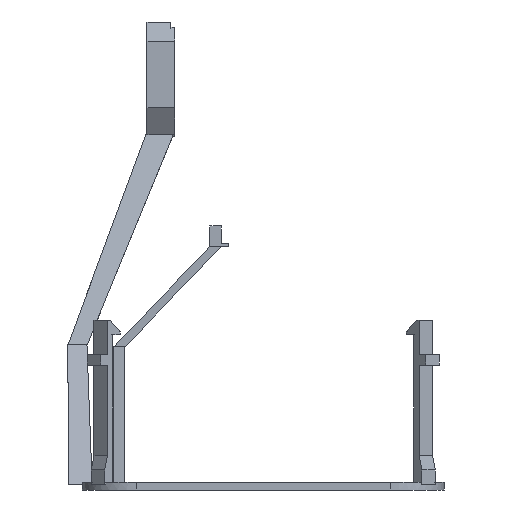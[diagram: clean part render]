
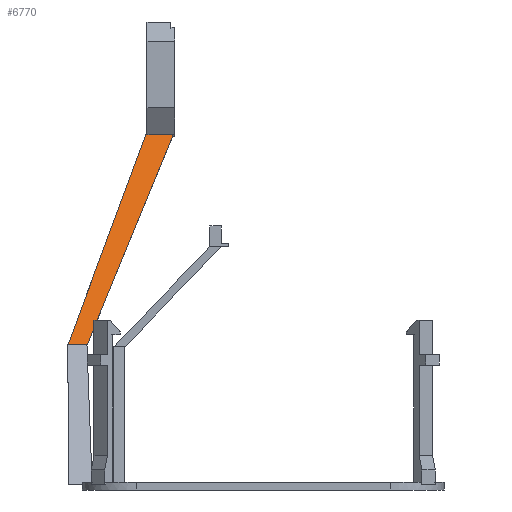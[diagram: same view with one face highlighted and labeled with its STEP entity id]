
A CAD part, left-side view. The second image highlights one B-rep face of the part: STEP entity #6770.
In plain terms, the highlighted free-form (B-spline) face has degree [1, 1] with [2, 2] control points.
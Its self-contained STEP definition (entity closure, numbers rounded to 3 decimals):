
#753 = B_SPLINE_SURFACE_WITH_KNOTS('',1,1,(
    (#754,#755)
    ,(#756,#757
    )),.UNSPECIFIED.,.F.,.F.,.F.,(2,2),(2,2),(-3.5,3.5),(0.,1.),
  .PIECEWISE_BEZIER_KNOTS.);
#754 = CARTESIAN_POINT('',(28.5,35.9,2.));
#755 = CARTESIAN_POINT('',(55.5,37.,31.4));
#756 = CARTESIAN_POINT('',(35.5,35.9,2.));
#757 = CARTESIAN_POINT('',(60.5,37.,31.4));
#6393 = B_SPLINE_SURFACE_WITH_KNOTS('',1,1,(
    (#6394,#6395)
    ,(#6396,#6397
    )),.UNSPECIFIED.,.F.,.F.,.F.,(2,2),(2,2),(-8.,8.),(0.,1.),
  .PIECEWISE_BEZIER_KNOTS.);
#6394 = CARTESIAN_POINT('',(55.5,37.,31.2));
#6395 = CARTESIAN_POINT('',(71.8,18.6,76.));
#6396 = CARTESIAN_POINT('',(60.5,37.,31.2));
#6397 = CARTESIAN_POINT('',(87.8,18.6,76.));
#6538 = PLANE('',#6539);
#6539 = AXIS2_PLACEMENT_3D('',#6540,#6541,#6542);
#6540 = CARTESIAN_POINT('',(55.5,37.,31.4));
#6541 = DIRECTION('',(0.,0.,1.));
#6542 = DIRECTION('',(0.781,0.625,-0.));
#6591 = B_SPLINE_SURFACE_WITH_KNOTS('',1,1,(
    (#6592,#6593)
    ,(#6594,#6595
    )),.UNSPECIFIED.,.F.,.F.,.F.,(2,2),(2,2),(-8.,8.),(0.,1.),
  .PIECEWISE_BEZIER_KNOTS.);
#6592 = CARTESIAN_POINT('',(60.5,41.,31.2));
#6593 = CARTESIAN_POINT('',(87.8,24.4,76.));
#6594 = CARTESIAN_POINT('',(55.5,41.,31.2));
#6595 = CARTESIAN_POINT('',(71.8,24.4,76.));
#6684 = VERTEX_POINT('',#6685);
#6685 = CARTESIAN_POINT('',(55.573,37.,31.4));
#6705 = EDGE_CURVE('',#6684,#6706,#6708,.T.);
#6706 = VERTEX_POINT('',#6707);
#6707 = CARTESIAN_POINT('',(55.573,40.926,31.4));
#6708 = SURFACE_CURVE('',#6709,(#6712,#6718),.PCURVE_S1.);
#6709 = B_SPLINE_CURVE_WITH_KNOTS('',1,(#6710,#6711),.UNSPECIFIED.,.F.,
  .F.,(2,2),(0.,1.),.PIECEWISE_BEZIER_KNOTS.);
#6710 = CARTESIAN_POINT('',(55.573,36.918,31.4));
#6711 = CARTESIAN_POINT('',(55.573,40.926,31.4));
#6712 = PCURVE('',#6538,#6713);
#6713 = DEFINITIONAL_REPRESENTATION('',(#6714),#6717);
#6714 = B_SPLINE_CURVE_WITH_KNOTS('',1,(#6715,#6716),.UNSPECIFIED.,.F.,
  .F.,(2,2),(0.,1.),.PIECEWISE_BEZIER_KNOTS.);
#6715 = CARTESIAN_POINT('',(0.006,-0.11));
#6716 = CARTESIAN_POINT('',(2.509,3.02));
#6717 = ( GEOMETRIC_REPRESENTATION_CONTEXT(2) 
PARAMETRIC_REPRESENTATION_CONTEXT() REPRESENTATION_CONTEXT('2D SPACE',''
  ) );
#6718 = PCURVE('',#6719,#6724);
#6719 = B_SPLINE_SURFACE_WITH_KNOTS('',1,1,(
    (#6720,#6721)
    ,(#6722,#6723
    )),.UNSPECIFIED.,.F.,.F.,.F.,(2,2),(2,2),(-2.9,2.9),(0.,1.),
  .PIECEWISE_BEZIER_KNOTS.);
#6720 = CARTESIAN_POINT('',(55.5,41.,31.2));
#6721 = CARTESIAN_POINT('',(71.8,24.4,76.));
#6722 = CARTESIAN_POINT('',(55.5,37.,31.2));
#6723 = CARTESIAN_POINT('',(71.8,18.6,76.));
#6724 = DEFINITIONAL_REPRESENTATION('',(#6725),#6728);
#6725 = B_SPLINE_CURVE_WITH_KNOTS('',1,(#6726,#6727),.UNSPECIFIED.,.F.,
  .F.,(2,2),(0.,1.),.PIECEWISE_BEZIER_KNOTS.);
#6726 = CARTESIAN_POINT('',(2.9,0.004));
#6727 = CARTESIAN_POINT('',(-2.9,0.004));
#6728 = ( GEOMETRIC_REPRESENTATION_CONTEXT(2) 
PARAMETRIC_REPRESENTATION_CONTEXT() REPRESENTATION_CONTEXT('2D SPACE',''
  ) );
#6770 = ADVANCED_FACE('',(#6771),#6719,.T.);
#6771 = FACE_BOUND('',#6772,.T.);
#6772 = EDGE_LOOP('',(#6773,#6802,#6824,#6849,#6892,#6912));
#6773 = ORIENTED_EDGE('',*,*,#6774,.F.);
#6774 = EDGE_CURVE('',#6775,#6684,#6777,.T.);
#6775 = VERTEX_POINT('',#6776);
#6776 = CARTESIAN_POINT('',(55.506,36.993,
    31.217));
#6777 = SURFACE_CURVE('',#6778,(#6784,#6793),.PCURVE_S1.);
#6778 = B_SPLINE_CURVE_WITH_KNOTS('',4,(#6779,#6780,#6781,#6782,#6783),
  .UNSPECIFIED.,.F.,.F.,(5,5),(0.,1.),.PIECEWISE_BEZIER_KNOTS.);
#6779 = CARTESIAN_POINT('',(55.506,36.993,
    31.217));
#6780 = CARTESIAN_POINT('',(55.523,36.995,
    31.263));
#6781 = CARTESIAN_POINT('',(55.539,36.997,
    31.308));
#6782 = CARTESIAN_POINT('',(55.556,36.998,
    31.354));
#6783 = CARTESIAN_POINT('',(55.573,37.,31.4));
#6784 = PCURVE('',#6719,#6785);
#6785 = DEFINITIONAL_REPRESENTATION('',(#6786),#6792);
#6786 = B_SPLINE_CURVE_WITH_KNOTS('',4,(#6787,#6788,#6789,#6790,#6791),
  .UNSPECIFIED.,.F.,.F.,(5,5),(0.,1.),.PIECEWISE_BEZIER_KNOTS.);
#6787 = CARTESIAN_POINT('',(2.9,0.));
#6788 = CARTESIAN_POINT('',(2.87,0.001));
#6789 = CARTESIAN_POINT('',(2.84,0.002));
#6790 = CARTESIAN_POINT('',(2.811,0.003));
#6791 = CARTESIAN_POINT('',(2.781,0.004));
#6792 = ( GEOMETRIC_REPRESENTATION_CONTEXT(2) 
PARAMETRIC_REPRESENTATION_CONTEXT() REPRESENTATION_CONTEXT('2D SPACE',''
  ) );
#6793 = PCURVE('',#753,#6794);
#6794 = DEFINITIONAL_REPRESENTATION('',(#6795),#6801);
#6795 = B_SPLINE_CURVE_WITH_KNOTS('',4,(#6796,#6797,#6798,#6799,#6800),
  .UNSPECIFIED.,.F.,.F.,(5,5),(0.,1.),.PIECEWISE_BEZIER_KNOTS.);
#6796 = CARTESIAN_POINT('',(-3.256,0.994));
#6797 = CARTESIAN_POINT('',(-3.292,0.995));
#6798 = CARTESIAN_POINT('',(-3.327,0.997));
#6799 = CARTESIAN_POINT('',(-3.363,0.998));
#6800 = CARTESIAN_POINT('',(-3.398,1.));
#6801 = ( GEOMETRIC_REPRESENTATION_CONTEXT(2) 
PARAMETRIC_REPRESENTATION_CONTEXT() REPRESENTATION_CONTEXT('2D SPACE',''
  ) );
#6802 = ORIENTED_EDGE('',*,*,#6803,.T.);
#6803 = EDGE_CURVE('',#6775,#6804,#6806,.T.);
#6804 = VERTEX_POINT('',#6805);
#6805 = CARTESIAN_POINT('',(71.565,18.866,
    75.353));
#6806 = SURFACE_CURVE('',#6807,(#6810,#6817),.PCURVE_S1.);
#6807 = B_SPLINE_CURVE_WITH_KNOTS('',1,(#6808,#6809),.UNSPECIFIED.,.F.,
  .F.,(2,2),(0.,1.),.PIECEWISE_BEZIER_KNOTS.);
#6808 = CARTESIAN_POINT('',(55.5,37.,31.2));
#6809 = CARTESIAN_POINT('',(71.8,18.6,76.));
#6810 = PCURVE('',#6719,#6811);
#6811 = DEFINITIONAL_REPRESENTATION('',(#6812),#6816);
#6812 = LINE('',#6813,#6814);
#6813 = CARTESIAN_POINT('',(2.9,0.));
#6814 = VECTOR('',#6815,1.);
#6815 = DIRECTION('',(0.,1.));
#6816 = ( GEOMETRIC_REPRESENTATION_CONTEXT(2) 
PARAMETRIC_REPRESENTATION_CONTEXT() REPRESENTATION_CONTEXT('2D SPACE',''
  ) );
#6817 = PCURVE('',#6393,#6818);
#6818 = DEFINITIONAL_REPRESENTATION('',(#6819),#6823);
#6819 = LINE('',#6820,#6821);
#6820 = CARTESIAN_POINT('',(-8.,0.));
#6821 = VECTOR('',#6822,1.);
#6822 = DIRECTION('',(0.,1.));
#6823 = ( GEOMETRIC_REPRESENTATION_CONTEXT(2) 
PARAMETRIC_REPRESENTATION_CONTEXT() REPRESENTATION_CONTEXT('2D SPACE',''
  ) );
#6824 = ORIENTED_EDGE('',*,*,#6825,.T.);
#6825 = EDGE_CURVE('',#6804,#6826,#6828,.T.);
#6826 = VERTEX_POINT('',#6827);
#6827 = CARTESIAN_POINT('',(71.565,24.4,75.353));
#6828 = SURFACE_CURVE('',#6829,(#6832,#6838),.PCURVE_S1.);
#6829 = B_SPLINE_CURVE_WITH_KNOTS('',1,(#6830,#6831),.UNSPECIFIED.,.F.,
  .F.,(2,2),(0.,1.),.PIECEWISE_BEZIER_KNOTS.);
#6830 = CARTESIAN_POINT('',(71.565,18.866,
    75.353));
#6831 = CARTESIAN_POINT('',(71.565,24.4,75.353));
#6832 = PCURVE('',#6719,#6833);
#6833 = DEFINITIONAL_REPRESENTATION('',(#6834),#6837);
#6834 = B_SPLINE_CURVE_WITH_KNOTS('',1,(#6835,#6836),.UNSPECIFIED.,.F.,
  .F.,(2,2),(0.,1.),.PIECEWISE_BEZIER_KNOTS.);
#6835 = CARTESIAN_POINT('',(2.9,0.986));
#6836 = CARTESIAN_POINT('',(-2.659,0.986));
#6837 = ( GEOMETRIC_REPRESENTATION_CONTEXT(2) 
PARAMETRIC_REPRESENTATION_CONTEXT() REPRESENTATION_CONTEXT('2D SPACE',''
  ) );
#6838 = PCURVE('',#6839,#6844);
#6839 = PLANE('',#6840);
#6840 = AXIS2_PLACEMENT_3D('',#6841,#6842,#6843);
#6841 = CARTESIAN_POINT('',(71.8,18.6,75.));
#6842 = DIRECTION('',(0.832,0.,0.555));
#6843 = DIRECTION('',(-0.555,0.,0.832));
#6844 = DEFINITIONAL_REPRESENTATION('',(#6845),#6848);
#6845 = B_SPLINE_CURVE_WITH_KNOTS('',1,(#6846,#6847),.UNSPECIFIED.,.F.,
  .F.,(2,2),(0.,1.),.PIECEWISE_BEZIER_KNOTS.);
#6846 = CARTESIAN_POINT('',(0.424,-0.266));
#6847 = CARTESIAN_POINT('',(0.424,-5.8));
#6848 = ( GEOMETRIC_REPRESENTATION_CONTEXT(2) 
PARAMETRIC_REPRESENTATION_CONTEXT() REPRESENTATION_CONTEXT('2D SPACE',''
  ) );
#6849 = ORIENTED_EDGE('',*,*,#6850,.T.);
#6850 = EDGE_CURVE('',#6826,#6851,#6853,.T.);
#6851 = VERTEX_POINT('',#6852);
#6852 = CARTESIAN_POINT('',(71.8,24.4,76.));
#6853 = SURFACE_CURVE('',#6854,(#6863,#6875),.PCURVE_S1.);
#6854 = B_SPLINE_CURVE_WITH_KNOTS('',4,(#6855,#6856,#6857,#6858,#6859,
    #6860,#6861,#6862),.UNSPECIFIED.,.F.,.F.,(5,3,5),(0.,0.113,
    1.),.UNSPECIFIED.);
#6855 = CARTESIAN_POINT('',(71.436,24.4,75.));
#6856 = CARTESIAN_POINT('',(71.446,24.4,75.028));
#6857 = CARTESIAN_POINT('',(71.457,24.4,75.057));
#6858 = CARTESIAN_POINT('',(71.467,24.4,75.085));
#6859 = CARTESIAN_POINT('',(71.558,24.4,75.335));
#6860 = CARTESIAN_POINT('',(71.639,24.4,75.556));
#6861 = CARTESIAN_POINT('',(71.719,24.4,75.778));
#6862 = CARTESIAN_POINT('',(71.8,24.4,76.));
#6863 = PCURVE('',#6719,#6864);
#6864 = DEFINITIONAL_REPRESENTATION('',(#6865),#6874);
#6865 = B_SPLINE_CURVE_WITH_KNOTS('',4,(#6866,#6867,#6868,#6869,#6870,
    #6871,#6872,#6873),.UNSPECIFIED.,.F.,.F.,(5,3,5),(0.,0.113,
    1.),.UNSPECIFIED.);
#6866 = CARTESIAN_POINT('',(-2.527,0.978));
#6867 = CARTESIAN_POINT('',(-2.538,0.978));
#6868 = CARTESIAN_POINT('',(-2.548,0.979));
#6869 = CARTESIAN_POINT('',(-2.559,0.98));
#6870 = CARTESIAN_POINT('',(-2.653,0.985));
#6871 = CARTESIAN_POINT('',(-2.735,0.99));
#6872 = CARTESIAN_POINT('',(-2.818,0.995));
#6873 = CARTESIAN_POINT('',(-2.9,1.));
#6874 = ( GEOMETRIC_REPRESENTATION_CONTEXT(2) 
PARAMETRIC_REPRESENTATION_CONTEXT() REPRESENTATION_CONTEXT('2D SPACE',''
  ) );
#6875 = PCURVE('',#6876,#6881);
#6876 = PLANE('',#6877);
#6877 = AXIS2_PLACEMENT_3D('',#6878,#6879,#6880);
#6878 = CARTESIAN_POINT('',(79.8,24.4,87.132));
#6879 = DIRECTION('',(0.,1.,0.));
#6880 = DIRECTION('',(1.,0.,0.));
#6881 = DEFINITIONAL_REPRESENTATION('',(#6882),#6891);
#6882 = B_SPLINE_CURVE_WITH_KNOTS('',4,(#6883,#6884,#6885,#6886,#6887,
    #6888,#6889,#6890),.UNSPECIFIED.,.F.,.F.,(5,3,5),(0.,0.113,
    1.),.UNSPECIFIED.);
#6883 = CARTESIAN_POINT('',(-8.364,12.132));
#6884 = CARTESIAN_POINT('',(-8.354,12.104));
#6885 = CARTESIAN_POINT('',(-8.343,12.076));
#6886 = CARTESIAN_POINT('',(-8.333,12.047));
#6887 = CARTESIAN_POINT('',(-8.242,11.797));
#6888 = CARTESIAN_POINT('',(-8.161,11.576));
#6889 = CARTESIAN_POINT('',(-8.081,11.354));
#6890 = CARTESIAN_POINT('',(-8.,11.132));
#6891 = ( GEOMETRIC_REPRESENTATION_CONTEXT(2) 
PARAMETRIC_REPRESENTATION_CONTEXT() REPRESENTATION_CONTEXT('2D SPACE',''
  ) );
#6892 = ORIENTED_EDGE('',*,*,#6893,.F.);
#6893 = EDGE_CURVE('',#6706,#6851,#6894,.T.);
#6894 = SURFACE_CURVE('',#6895,(#6898,#6905),.PCURVE_S1.);
#6895 = B_SPLINE_CURVE_WITH_KNOTS('',1,(#6896,#6897),.UNSPECIFIED.,.F.,
  .F.,(2,2),(0.,1.),.PIECEWISE_BEZIER_KNOTS.);
#6896 = CARTESIAN_POINT('',(55.5,41.,31.2));
#6897 = CARTESIAN_POINT('',(71.8,24.4,76.));
#6898 = PCURVE('',#6719,#6899);
#6899 = DEFINITIONAL_REPRESENTATION('',(#6900),#6904);
#6900 = LINE('',#6901,#6902);
#6901 = CARTESIAN_POINT('',(-2.9,0.));
#6902 = VECTOR('',#6903,1.);
#6903 = DIRECTION('',(0.,1.));
#6904 = ( GEOMETRIC_REPRESENTATION_CONTEXT(2) 
PARAMETRIC_REPRESENTATION_CONTEXT() REPRESENTATION_CONTEXT('2D SPACE',''
  ) );
#6905 = PCURVE('',#6591,#6906);
#6906 = DEFINITIONAL_REPRESENTATION('',(#6907),#6911);
#6907 = LINE('',#6908,#6909);
#6908 = CARTESIAN_POINT('',(8.,0.));
#6909 = VECTOR('',#6910,1.);
#6910 = DIRECTION('',(0.,1.));
#6911 = ( GEOMETRIC_REPRESENTATION_CONTEXT(2) 
PARAMETRIC_REPRESENTATION_CONTEXT() REPRESENTATION_CONTEXT('2D SPACE',''
  ) );
#6912 = ORIENTED_EDGE('',*,*,#6705,.F.);
